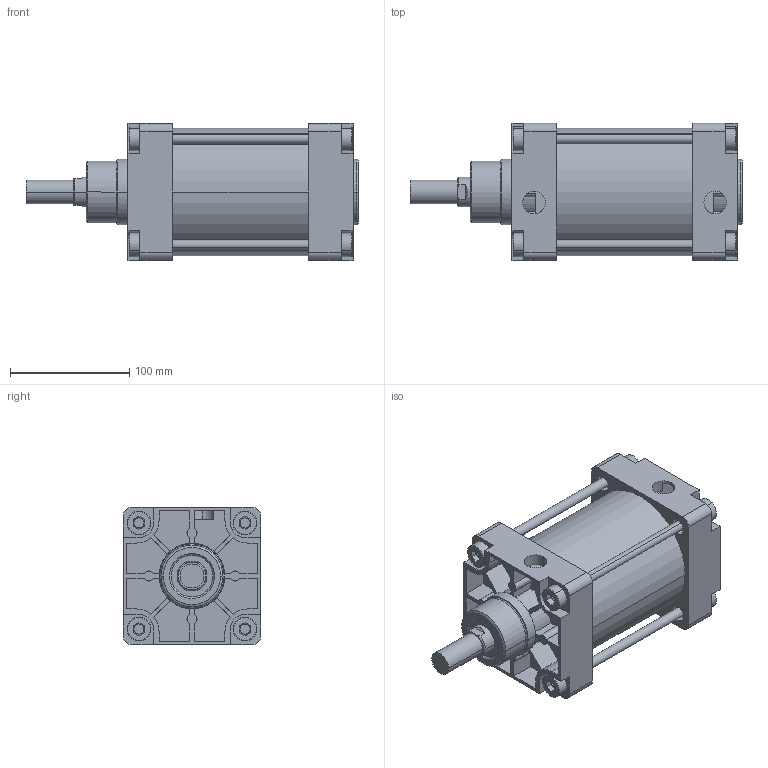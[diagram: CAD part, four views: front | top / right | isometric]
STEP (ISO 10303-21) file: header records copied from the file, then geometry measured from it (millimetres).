
FILE_DESCRIPTION(('CATIA V5 STEP Exchange'),'2;1');
FILE_NAME('D:\stp file for catalog\PNC\100\PNC 100-25-50.stp','2015-10-17T07:07:49+00:00',('none'),('none'),'Version 5-6 Release 2012','CATIA V5 STEP AP203','none');
FILE_SCHEMA(('CONFIG_CONTROL_DESIGN'));
Length unit declared in the file: millimetre
Products named in the file (1): PNC 100-25-50-00
Assembly tree (2 placements, depth 2):
  PNC 100-25-50-00
    #58
    #14124
Bounding box: 278.5 x 115 x 115 mm (x, y, z)
Volume: 1460111.2 mm3; surface area: 286367.3 mm2
Topology: 6 solids, 6 shells, 534 faces, 1388 edges, 914 vertices
Faces by surface type: plane 336, cylinder 166, torus 26, cone 6
Entity records: 14648 total; most frequent: ORIENTED_EDGE 2776, CARTESIAN_POINT 2587, DIRECTION 1886, EDGE_CURVE 1388, VECTOR 922, LINE 922, VERTEX_POINT 914, AXIS2_PLACEMENT_3D 711
